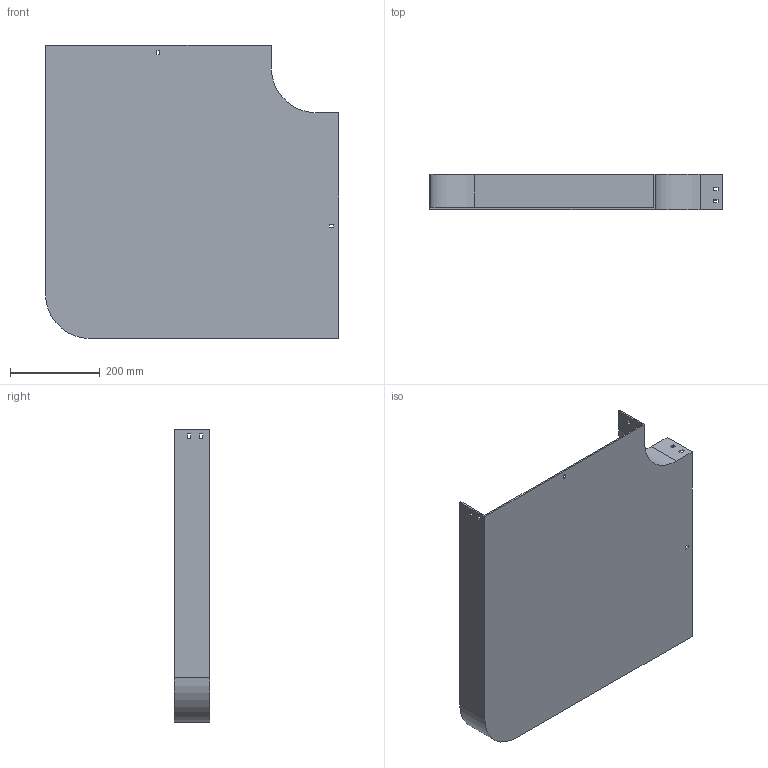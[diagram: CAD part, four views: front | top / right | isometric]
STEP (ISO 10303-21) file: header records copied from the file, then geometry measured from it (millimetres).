
FILE_DESCRIPTION (( 'STEP AP214' ), '1' );
FILE_NAME ('10B1C500.step', '2025-02-21T09:41:47', ( '' ), ( '' ), 'SwSTEP 2.0', 'SolidWorks 2023', '' );
FILE_SCHEMA (( 'AUTOMOTIVE_DESIGN' ));
Length unit declared in the file: millimetre
Products named in the file (1): 10B1C500
Bounding box: 654 x 79 x 654 mm (x, y, z)
Volume: 1818117.1 mm3; surface area: 1050005.6 mm2
Topology: 1 solids, 1 shells, 58 faces, 168 edges, 112 vertices
Faces by surface type: plane 54, cylinder 4
Entity records: 1943 total; most frequent: CARTESIAN_POINT 339, ORIENTED_EDGE 336, DIRECTION 294, EDGE_CURVE 168, LINE 160, VECTOR 160, VERTEX_POINT 112, EDGE_LOOP 78
